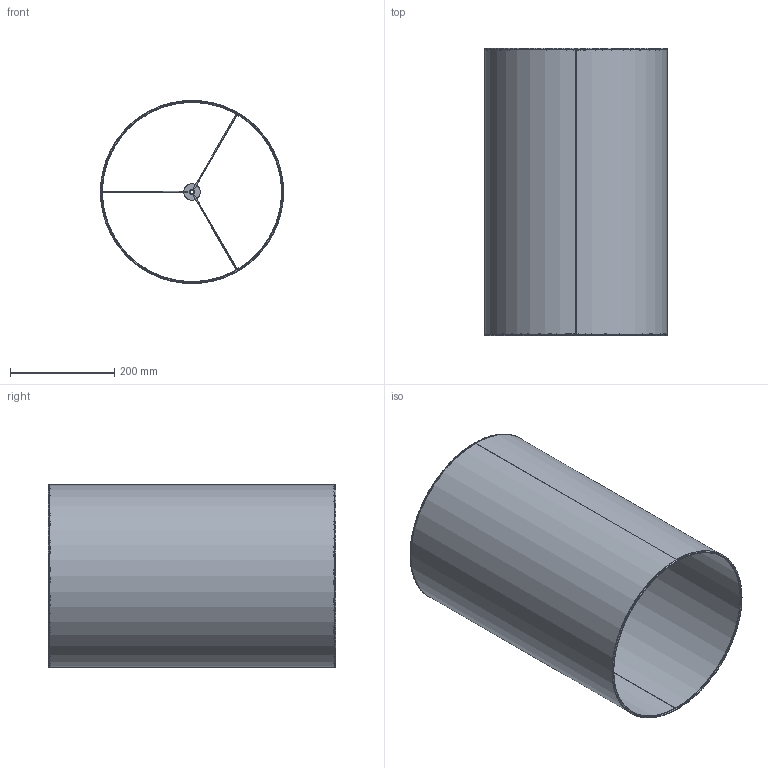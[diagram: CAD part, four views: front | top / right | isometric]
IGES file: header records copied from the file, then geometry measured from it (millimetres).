
Start section: SolidWorks IGES file using analytic representation for surfaces
Global section: file name: F:\GABRYSIA\MODELE 3D\_CAMELEON\KLOSZE I OPRAWY WWW\BARREL_L_8511_8510_8417_8508_8507_8420_8418_8506_WWW\BARREL_L_8511_8510_8417_8508_8507_8420_8418_8506.IGS; native system: SolidWorks 2017; preprocessor: SolidWorks 2017; author: Togambi; date: 200511.124730; units: millimetre
Bounding box: 350.68 x 550.76 x 350.68 mm (x, y, z)
Surface area: 1263666.1 mm2 (no closed solid volume)
Topology: 0 solids, 0 shells, 55 faces, 889 edges, 889 vertices
Faces by surface type: bspline 33, revolution 22
